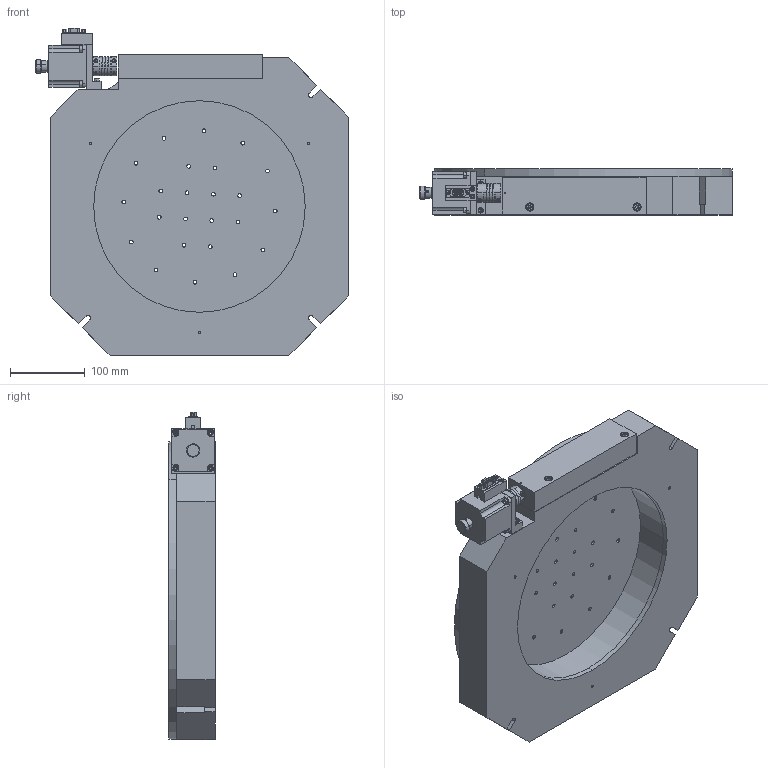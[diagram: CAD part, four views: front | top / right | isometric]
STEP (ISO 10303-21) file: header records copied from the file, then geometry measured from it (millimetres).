
FILE_DESCRIPTION (( 'STEP AP203' ), '1' );
FILE_NAME ('7SRA1400-0µç¶¯Ðý×ªÌ¨.STEP', '2014-08-11T08:29:13', ( '' ), ( '' ), 'SwSTEP 2.0', 'SolidWorks 2012', '' );
FILE_SCHEMA (( 'CONFIG_CONTROL_DESIGN' ));
Length unit declared in the file: millimetre
Products named in the file (1): 7SRA1400-0萇雄唅蛌怢
Bounding box: 420 x 61.99 x 439 mm (x, y, z)
Surface area: 569046.7 mm2 (no closed solid volume)
Topology: 0 solids, 46 shells, 481 faces, 1507 edges, 1068 vertices
Faces by surface type: plane 223, cylinder 198, torus 36, cone 22, bspline 2
Entity records: 17439 total; most frequent: CARTESIAN_POINT 3589, DIRECTION 3039, ORIENTED_EDGE 2470, EDGE_CURVE 1495, AXIS2_PLACEMENT_3D 1094, VERTEX_POINT 1068, LINE 851, VECTOR 851
